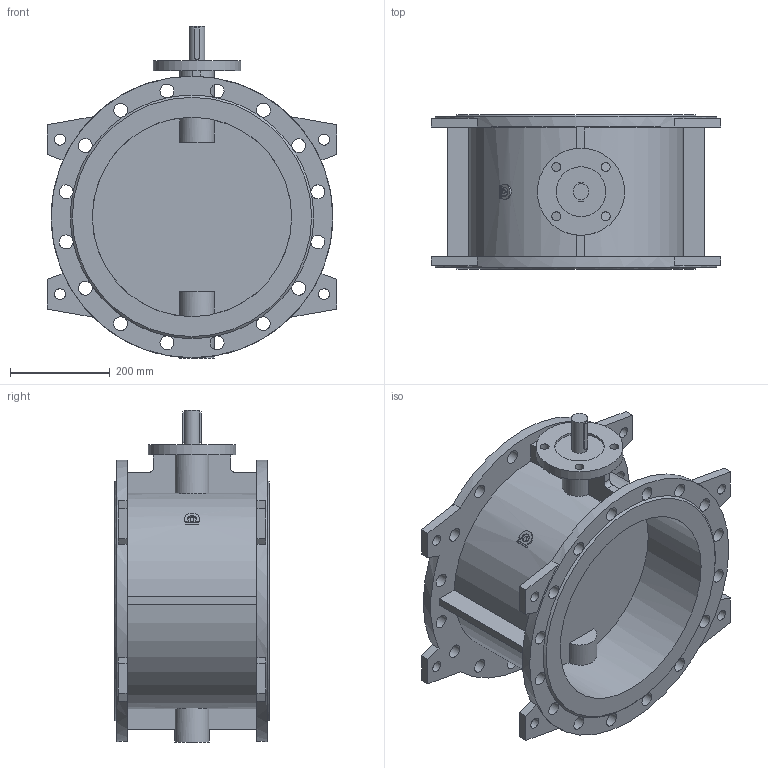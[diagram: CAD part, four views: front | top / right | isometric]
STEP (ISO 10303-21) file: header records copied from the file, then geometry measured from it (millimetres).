
FILE_DESCRIPTION(('STEP AP203'), '1');
FILE_NAME('Çàòâîð 023F.Z DN400 PN10 ïîä èñïîëíèòåëüíûé ìåõàíèçì', '', ('UNSPECIFIED'), ('UNSPECIFIED'), 'ASCON STEP Converter 1.6', 'ASCON Math Kernel', '');
FILE_SCHEMA(('CONFIG_CONTROL_DESIGN'));
Length unit declared in the file: millimetre
Bounding box: 580 x 310 x 666 mm (x, y, z)
Volume: 18158074.9 mm3; surface area: 1752868.4 mm2
Topology: 1 solids, 1 shells, 158 faces, 525 edges, 350 vertices
Faces by surface type: plane 85, cylinder 71, cone 2
Full cylindrical faces by diameter (mm): 18 x4, 22 x8, 28 x32, 32 x1, 70 x1, 100 x1, 175 x1, 400 x2, 565 x2
Entity records: 9327 total; most frequent: CARTESIAN_POINT 3375, DIRECTION 958, ORIENTED_EDGE 940, EDGE_CURVE 470, AXIS2_PLACEMENT_3D 380, VERTEX_POINT 350, EDGE_LOOP 282, CIRCLE 221
